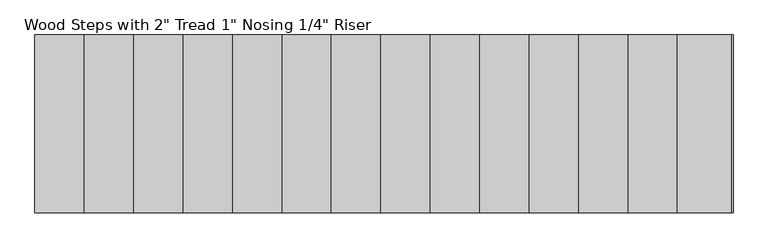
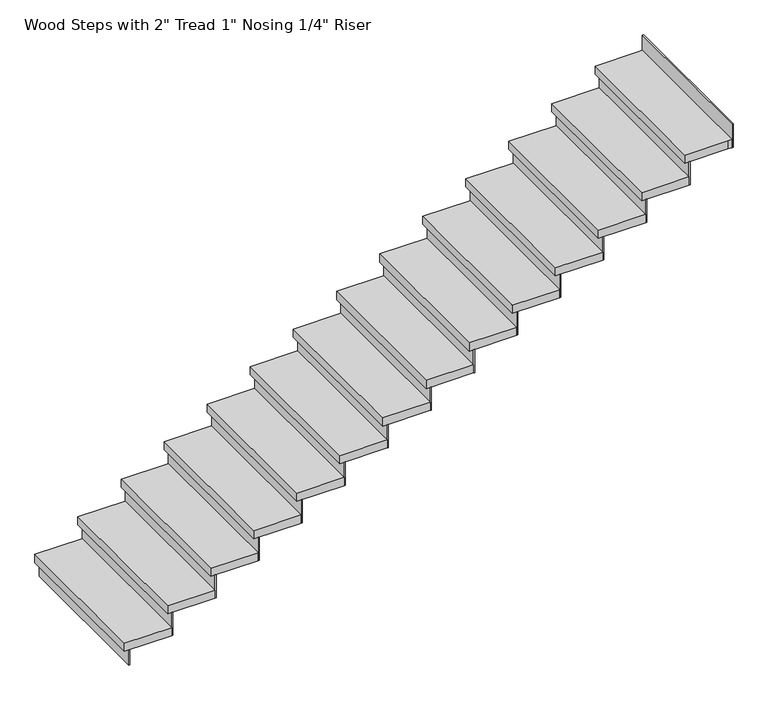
"""IFC4 building model written with IfcOpenShell, lengths in millimetres: stair flight geometry."""

from ifc_helpers import new_model, si_unit, frame, origin, origin_with_axes, place, context, project, spatial, polyline, outline, extrude, source, transform, mapped, element, save


def stair_flight_5c327054(model_context):
    return source(origin(), model_context, "Body", "SweptSolid", [
        extrude(outline(polyline([(-23963.2665976, 14638.5127053), (-23969.6165976, 14638.5127053), (-23969.6165976, 15552.9127053), (-23963.2665976, 15552.9127053), (-23963.2665976, 14638.5127053)])), origin_with_axes(), (0.0, 0.0, 1.0), 94.3428571),
        extrude(outline(polyline([(-23715.6165976, 15552.9127053), (-23715.6165976, 14638.5127053), (-23995.0165976, 14638.5127053), (-23995.0165976, 15552.9127053), (-23715.6165976, 15552.9127053)])), frame((0.0, 0.0, 94.3428571), z_axis=(0.0, 0.0, 1.0), x_axis=(1.0, 0.0, 0.0)), (0.0, 0.0, 1.0), 50.8),
        extrude(outline(polyline([(-23709.2665976, 14638.5127053), (-23715.6165976, 14638.5127053), (-23715.6165976, 15552.9127053), (-23709.2665976, 15552.9127053), (-23709.2665976, 14638.5127053)])), frame((0.0, 0.0, 94.3428571), z_axis=(0.0, 0.0, 1.0), x_axis=(1.0, 0.0, 0.0)), (0.0, 0.0, 1.0), 145.1428571),
        extrude(outline(polyline([(-23461.6165976, 15552.9127053), (-23461.6165976, 14638.5127053), (-23741.0165976, 14638.5127053), (-23741.0165976, 15552.9127053), (-23461.6165976, 15552.9127053)])), frame((0.0, 0.0, 239.4857143), z_axis=(0.0, 0.0, 1.0), x_axis=(1.0, 0.0, 0.0)), (0.0, 0.0, 1.0), 50.8),
        extrude(outline(polyline([(-23455.2665976, 14638.5127053), (-23461.6165976, 14638.5127053), (-23461.6165976, 15552.9127053), (-23455.2665976, 15552.9127053), (-23455.2665976, 14638.5127053)])), frame((0.0, 0.0, 239.4857143), z_axis=(0.0, 0.0, 1.0), x_axis=(1.0, 0.0, 0.0)), (0.0, 0.0, 1.0), 145.1428571),
        extrude(outline(polyline([(-23207.6165976, 15552.9127053), (-23207.6165976, 14638.5127053), (-23487.0165976, 14638.5127053), (-23487.0165976, 15552.9127053), (-23207.6165976, 15552.9127053)])), frame((0.0, 0.0, 384.6285714), z_axis=(0.0, 0.0, 1.0), x_axis=(1.0, 0.0, 0.0)), (0.0, 0.0, 1.0), 50.8),
        extrude(outline(polyline([(-23201.2665976, 14638.5127053), (-23207.6165976, 14638.5127053), (-23207.6165976, 15552.9127053), (-23201.2665976, 15552.9127053), (-23201.2665976, 14638.5127053)])), frame((0.0, 0.0, 384.6285714), z_axis=(0.0, 0.0, 1.0), x_axis=(1.0, 0.0, 0.0)), (0.0, 0.0, 1.0), 145.1428571),
        extrude(outline(polyline([(-22953.6165976, 15552.9127053), (-22953.6165976, 14638.5127053), (-23233.0165976, 14638.5127053), (-23233.0165976, 15552.9127053), (-22953.6165976, 15552.9127053)])), frame((0.0, 0.0, 529.7714286), z_axis=(0.0, 0.0, 1.0), x_axis=(1.0, 0.0, 0.0)), (0.0, 0.0, 1.0), 50.8),
        extrude(outline(polyline([(-22947.2665976, 14638.5127053), (-22953.6165976, 14638.5127053), (-22953.6165976, 15552.9127053), (-22947.2665976, 15552.9127053), (-22947.2665976, 14638.5127053)])), frame((0.0, 0.0, 529.7714286), z_axis=(0.0, 0.0, 1.0), x_axis=(1.0, 0.0, 0.0)), (0.0, 0.0, 1.0), 145.1428571),
        extrude(outline(polyline([(-22699.6165976, 15552.9127053), (-22699.6165976, 14638.5127053), (-22979.0165976, 14638.5127053), (-22979.0165976, 15552.9127053), (-22699.6165976, 15552.9127053)])), frame((0.0, 0.0, 674.9142857), z_axis=(0.0, 0.0, 1.0), x_axis=(1.0, 0.0, 0.0)), (0.0, 0.0, 1.0), 50.8),
        extrude(outline(polyline([(-22693.2665976, 14638.5127053), (-22699.6165976, 14638.5127053), (-22699.6165976, 15552.9127053), (-22693.2665976, 15552.9127053), (-22693.2665976, 14638.5127053)])), frame((0.0, 0.0, 674.9142857), z_axis=(0.0, 0.0, 1.0), x_axis=(1.0, 0.0, 0.0)), (0.0, 0.0, 1.0), 145.1428571),
        extrude(outline(polyline([(-22445.6165976, 15552.9127053), (-22445.6165976, 14638.5127053), (-22725.0165976, 14638.5127053), (-22725.0165976, 15552.9127053), (-22445.6165976, 15552.9127053)])), frame((0.0, 0.0, 820.0571429), z_axis=(0.0, 0.0, 1.0), x_axis=(1.0, 0.0, 0.0)), (0.0, 0.0, 1.0), 50.8),
        extrude(outline(polyline([(-22439.2665976, 14638.5127053), (-22445.6165976, 14638.5127053), (-22445.6165976, 15552.9127053), (-22439.2665976, 15552.9127053), (-22439.2665976, 14638.5127053)])), frame((0.0, 0.0, 820.0571429), z_axis=(0.0, 0.0, 1.0), x_axis=(1.0, 0.0, 0.0)), (0.0, 0.0, 1.0), 145.1428571),
        extrude(outline(polyline([(-22191.6165976, 15552.9127053), (-22191.6165976, 14638.5127053), (-22471.0165976, 14638.5127053), (-22471.0165976, 15552.9127053), (-22191.6165976, 15552.9127053)])), frame((0.0, 0.0, 965.2), z_axis=(0.0, 0.0, 1.0), x_axis=(1.0, 0.0, 0.0)), (0.0, 0.0, 1.0), 50.8),
        extrude(outline(polyline([(-22185.2665976, 14638.5127053), (-22191.6165976, 14638.5127053), (-22191.6165976, 15552.9127053), (-22185.2665976, 15552.9127053), (-22185.2665976, 14638.5127053)])), frame((0.0, 0.0, 965.2), z_axis=(0.0, 0.0, 1.0), x_axis=(1.0, 0.0, 0.0)), (0.0, 0.0, 1.0), 145.1428571),
        extrude(outline(polyline([(-21937.6165976, 15552.9127053), (-21937.6165976, 14638.5127053), (-22217.0165976, 14638.5127053), (-22217.0165976, 15552.9127053), (-21937.6165976, 15552.9127053)])), frame((0.0, 0.0, 1110.3428571), z_axis=(0.0, 0.0, 1.0), x_axis=(1.0, 0.0, 0.0)), (0.0, 0.0, 1.0), 50.8),
        extrude(outline(polyline([(-21931.2665976, 14638.5127053), (-21937.6165976, 14638.5127053), (-21937.6165976, 15552.9127053), (-21931.2665976, 15552.9127053), (-21931.2665976, 14638.5127053)])), frame((0.0, 0.0, 1110.3428571), z_axis=(0.0, 0.0, 1.0), x_axis=(1.0, 0.0, 0.0)), (0.0, 0.0, 1.0), 145.1428571),
        extrude(outline(polyline([(-21683.6165976, 15552.9127053), (-21683.6165976, 14638.5127053), (-21963.0165976, 14638.5127053), (-21963.0165976, 15552.9127053), (-21683.6165976, 15552.9127053)])), frame((0.0, 0.0, 1255.4857143), z_axis=(0.0, 0.0, 1.0), x_axis=(1.0, 0.0, 0.0)), (0.0, 0.0, 1.0), 50.8),
        extrude(outline(polyline([(-21677.2665976, 14638.5127053), (-21683.6165976, 14638.5127053), (-21683.6165976, 15552.9127053), (-21677.2665976, 15552.9127053), (-21677.2665976, 14638.5127053)])), frame((0.0, 0.0, 1255.4857143), z_axis=(0.0, 0.0, 1.0), x_axis=(1.0, 0.0, 0.0)), (0.0, 0.0, 1.0), 145.1428571),
        extrude(outline(polyline([(-21429.6165976, 15552.9127053), (-21429.6165976, 14638.5127053), (-21709.0165976, 14638.5127053), (-21709.0165976, 15552.9127053), (-21429.6165976, 15552.9127053)])), frame((0.0, 0.0, 1400.6285714), z_axis=(0.0, 0.0, 1.0), x_axis=(1.0, 0.0, 0.0)), (0.0, 0.0, 1.0), 50.8),
        extrude(outline(polyline([(-21423.2665976, 14638.5127053), (-21429.6165976, 14638.5127053), (-21429.6165976, 15552.9127053), (-21423.2665976, 15552.9127053), (-21423.2665976, 14638.5127053)])), frame((0.0, 0.0, 1400.6285714), z_axis=(0.0, 0.0, 1.0), x_axis=(1.0, 0.0, 0.0)), (0.0, 0.0, 1.0), 145.1428571),
        extrude(outline(polyline([(-21175.6165976, 15552.9127053), (-21175.6165976, 14638.5127053), (-21455.0165976, 14638.5127053), (-21455.0165976, 15552.9127053), (-21175.6165976, 15552.9127053)])), frame((0.0, 0.0, 1545.7714286), z_axis=(0.0, 0.0, 1.0), x_axis=(1.0, 0.0, 0.0)), (0.0, 0.0, 1.0), 50.8),
        extrude(outline(polyline([(-21169.2665976, 14638.5127053), (-21175.6165976, 14638.5127053), (-21175.6165976, 15552.9127053), (-21169.2665976, 15552.9127053), (-21169.2665976, 14638.5127053)])), frame((0.0, 0.0, 1545.7714286), z_axis=(0.0, 0.0, 1.0), x_axis=(1.0, 0.0, 0.0)), (0.0, 0.0, 1.0), 145.1428571),
        extrude(outline(polyline([(-20921.6165976, 15552.9127053), (-20921.6165976, 14638.5127053), (-21201.0165976, 14638.5127053), (-21201.0165976, 15552.9127053), (-20921.6165976, 15552.9127053)])), frame((0.0, 0.0, 1690.9142857), z_axis=(0.0, 0.0, 1.0), x_axis=(1.0, 0.0, 0.0)), (0.0, 0.0, 1.0), 50.8),
        extrude(outline(polyline([(-20915.2665976, 14638.5127053), (-20921.6165976, 14638.5127053), (-20921.6165976, 15552.9127053), (-20915.2665976, 15552.9127053), (-20915.2665976, 14638.5127053)])), frame((0.0, 0.0, 1690.9142857), z_axis=(0.0, 0.0, 1.0), x_axis=(1.0, 0.0, 0.0)), (0.0, 0.0, 1.0), 145.1428571),
        extrude(outline(polyline([(-20667.6165976, 15552.9127053), (-20667.6165976, 14638.5127053), (-20947.0165976, 14638.5127053), (-20947.0165976, 15552.9127053), (-20667.6165976, 15552.9127053)])), frame((0.0, 0.0, 1836.0571429), z_axis=(0.0, 0.0, 1.0), x_axis=(1.0, 0.0, 0.0)), (0.0, 0.0, 1.0), 50.8),
        extrude(outline(polyline([(-20407.2665976, 14638.5127053), (-20413.6165976, 14638.5127053), (-20413.6165976, 15552.9127053), (-20407.2665976, 15552.9127053), (-20407.2665976, 14638.5127053)])), frame((0.0, 0.0, 1981.2), z_axis=(0.0, 0.0, 1.0), x_axis=(1.0, 0.0, 0.0)), (0.0, 0.0, 1.0), 145.1428571),
        extrude(outline(polyline([(-20661.2665976, 14638.5127053), (-20667.6165976, 14638.5127053), (-20667.6165976, 15552.9127053), (-20661.2665976, 15552.9127053), (-20661.2665976, 14638.5127053)])), frame((0.0, 0.0, 1836.0571429), z_axis=(0.0, 0.0, 1.0), x_axis=(1.0, 0.0, 0.0)), (0.0, 0.0, 1.0), 145.1428571),
        extrude(outline(polyline([(-20413.6165976, 15552.9127053), (-20413.6165976, 14638.5127053), (-20439.0165976, 14638.5127053), (-20693.0165976, 14638.5127053), (-20693.0165976, 15552.9127053), (-20439.0165976, 15552.9127053), (-20413.6165976, 15552.9127053)])), frame((0.0, 0.0, 1981.2), z_axis=(0.0, 0.0, 1.0), x_axis=(1.0, 0.0, 0.0)), (0.0, 0.0, 1.0), 50.8),
    ])


if __name__ == "__main__":
    model = new_model("IFC4")
    model_context = context("Model", 3, world=origin())
    ifc_project = project(units=[si_unit("LENGTHUNIT", "METRE", prefix="MILLI")], contexts=[model_context])
    site = spatial("IfcSite", under=ifc_project)
    building = spatial("IfcBuilding", under=site)
    placement = place(None, origin())
    stair_flight_shape = stair_flight_5c327054(model_context)
    element("IfcStairFlight", 1, ObjectType="Wood Steps with 2\" Tread 1\" Nosing 1/4\" Riser", at=placement, inside=building, context=model_context, shape_type="MappedRepresentation", body=[
        mapped(stair_flight_shape, transform((0.0, 0.0, 0.0), x_axis=(1.0, 0.0, 0.0), y_axis=(0.0, 1.0, 0.0), z_axis=(0.0, 0.0, 1.0))),
    ])
    save(model, "model.ifc")
